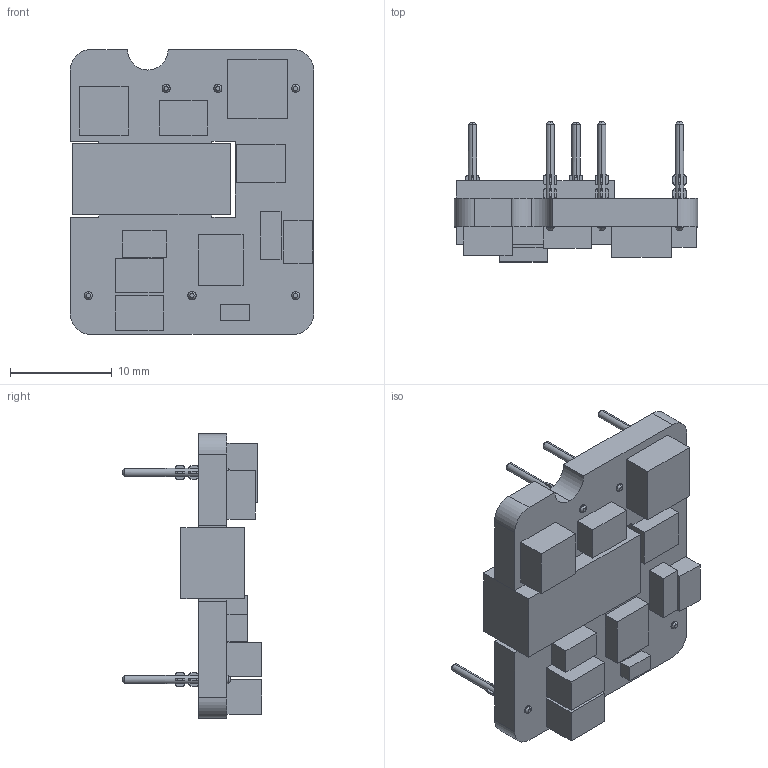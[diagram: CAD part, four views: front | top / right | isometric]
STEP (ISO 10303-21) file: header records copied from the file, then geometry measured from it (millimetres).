
FILE_DESCRIPTION (( 'STEP AP214' ), '1' );
FILE_NAME ('TON 15.STEP', '2018-10-12T01:31:20', ( 'user' ), ( '' ), 'SwSTEP 2.0', 'SolidWorks 2016', '' );
FILE_SCHEMA (( 'AUTOMOTIVE_DESIGN' ));
Length unit declared in the file: millimetre
Products named in the file (1): TON 15
Bounding box: 23.88 x 13.7 x 27.94 mm (x, y, z)
Volume: 2656.9 mm3; surface area: 2396.8 mm2
Topology: 1 solids, 1 shells, 492 faces, 1335 edges, 880 vertices
Faces by surface type: plane 258, torus 120, cylinder 90, cone 24
Entity records: 17143 total; most frequent: CARTESIAN_POINT 3668, ORIENTED_EDGE 2670, DIRECTION 2615, EDGE_CURVE 1335, AXIS2_PLACEMENT_3D 979, VERTEX_POINT 880, LINE 657, VECTOR 657
